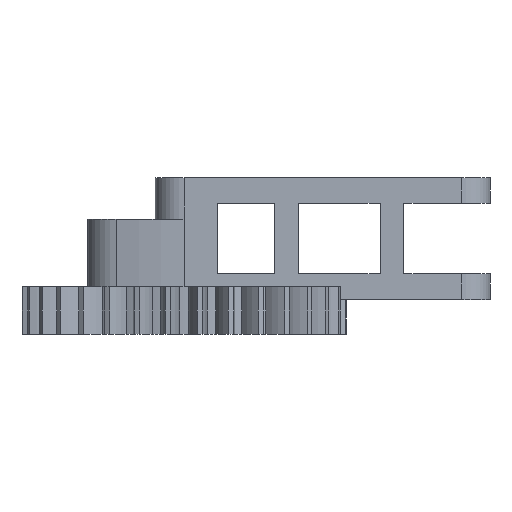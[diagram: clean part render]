
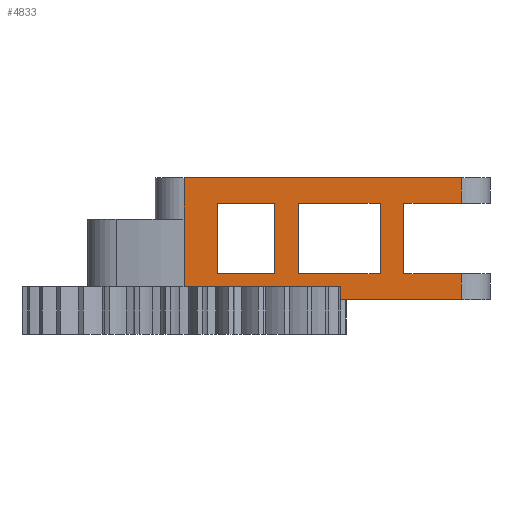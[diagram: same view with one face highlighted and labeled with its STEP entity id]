
A CAD part, left-side view. The second image highlights one B-rep face of the part: STEP entity #4833.
In plain terms, the highlighted planar face has unit normal (-1, 0, 0).
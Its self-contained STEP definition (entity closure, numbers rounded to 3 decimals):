
#67 = CARTESIAN_POINT ( 'NONE',  ( -6., -58., 22.802 ) ) ;
#85 = DIRECTION ( 'NONE',  ( 0., -1., 0. ) ) ;
#133 = LINE ( 'NONE', #2324, #3306 ) ;
#192 = VECTOR ( 'NONE', #1176, 1000. ) ;
#200 = CARTESIAN_POINT ( 'NONE',  ( -6., 0., 0. ) ) ;
#202 = CARTESIAN_POINT ( 'NONE',  ( -6., -58., 22.802 ) ) ;
#218 = EDGE_CURVE ( 'NONE', #2537, #4668, #1034, .T. ) ;
#269 = LINE ( 'NONE', #2926, #3499 ) ;
#277 = LINE ( 'NONE', #2504, #4988 ) ;
#288 = EDGE_LOOP ( 'NONE', ( #4915, #5011, #3444, #1164 ) ) ;
#293 = VERTEX_POINT ( 'NONE', #200 ) ;
#320 = CARTESIAN_POINT ( 'NONE',  ( -6., -46., 17.402 ) ) ;
#376 = LINE ( 'NONE', #778, #5596 ) ;
#390 = CARTESIAN_POINT ( 'NONE',  ( -6., -7., -2.698 ) ) ;
#429 = VERTEX_POINT ( 'NONE', #4463 ) ;
#443 = VECTOR ( 'NONE', #85, 1000. ) ;
#466 = VECTOR ( 'NONE', #1592, 1000. ) ;
#509 = DIRECTION ( 'NONE',  ( 0., 0., -1. ) ) ;
#553 = VECTOR ( 'NONE', #1379, 1000. ) ;
#625 = CARTESIAN_POINT ( 'NONE',  ( -6., -58., 17.402 ) ) ;
#632 = CARTESIAN_POINT ( 'NONE',  ( -6., -58., -2.698 ) ) ;
#641 = CARTESIAN_POINT ( 'NONE',  ( -6., -28.882, 0. ) ) ;
#647 = ORIENTED_EDGE ( 'NONE', *, *, #3559, .T. ) ;
#663 = LINE ( 'NONE', #202, #466 ) ;
#679 = CARTESIAN_POINT ( 'NONE',  ( -6., -58., 2.702 ) ) ;
#709 = ORIENTED_EDGE ( 'NONE', *, *, #1728, .F. ) ;
#764 = VERTEX_POINT ( 'NONE', #1744 ) ;
#773 = LINE ( 'NONE', #3939, #192 ) ;
#778 = CARTESIAN_POINT ( 'NONE',  ( -6., -58., 2.702 ) ) ;
#806 = LINE ( 'NONE', #5646, #4137 ) ;
#816 = EDGE_CURVE ( 'NONE', #2604, #3696, #5651, .T. ) ;
#883 = LINE ( 'NONE', #2648, #933 ) ;
#913 = VERTEX_POINT ( 'NONE', #5470 ) ;
#933 = VECTOR ( 'NONE', #1954, 1000. ) ;
#966 = ORIENTED_EDGE ( 'NONE', *, *, #5220, .T. ) ;
#1034 = LINE ( 'NONE', #3231, #2230 ) ;
#1059 = CARTESIAN_POINT ( 'NONE',  ( -6., -19., 2.702 ) ) ;
#1091 = PLANE ( 'NONE',  #3887 ) ;
#1144 = CARTESIAN_POINT ( 'NONE',  ( -6., -46., 2.702 ) ) ;
#1164 = ORIENTED_EDGE ( 'NONE', *, *, #2111, .F. ) ;
#1176 = DIRECTION ( 'NONE',  ( 0., 1., 0. ) ) ;
#1257 = CARTESIAN_POINT ( 'NONE',  ( -6., -41., 17.402 ) ) ;
#1259 = EDGE_CURVE ( 'NONE', #913, #4992, #4088, .T. ) ;
#1311 = VERTEX_POINT ( 'NONE', #1144 ) ;
#1321 = EDGE_CURVE ( 'NONE', #293, #429, #2850, .T. ) ;
#1379 = DIRECTION ( 'NONE',  ( 0., 0., 1. ) ) ;
#1535 = ORIENTED_EDGE ( 'NONE', *, *, #5072, .F. ) ;
#1592 = DIRECTION ( 'NONE',  ( 0., -1., 0. ) ) ;
#1607 = DIRECTION ( 'NONE',  ( 0., 1., 0. ) ) ;
#1649 = CARTESIAN_POINT ( 'NONE',  ( -6., -58., -2.698 ) ) ;
#1691 = CARTESIAN_POINT ( 'NONE',  ( -6., -58., 17.402 ) ) ;
#1728 = EDGE_CURVE ( 'NONE', #1311, #5466, #4630, .T. ) ;
#1744 = CARTESIAN_POINT ( 'NONE',  ( -6., -7., 2.702 ) ) ;
#1779 = CARTESIAN_POINT ( 'NONE',  ( -6., -58., 2.702 ) ) ;
#1831 = CARTESIAN_POINT ( 'NONE',  ( -6., -24., -2.698 ) ) ;
#1909 = EDGE_CURVE ( 'NONE', #4668, #764, #2034, .T. ) ;
#1954 = DIRECTION ( 'NONE',  ( 0., 0., 1. ) ) ;
#1960 = ORIENTED_EDGE ( 'NONE', *, *, #218, .F. ) ;
#1967 = FACE_BOUND ( 'NONE', #288, .T. ) ;
#2005 = ORIENTED_EDGE ( 'NONE', *, *, #1909, .F. ) ;
#2034 = LINE ( 'NONE', #390, #5414 ) ;
#2109 = CARTESIAN_POINT ( 'NONE',  ( -6., -7., 17.402 ) ) ;
#2110 = VECTOR ( 'NONE', #3163, 1000. ) ;
#2111 = EDGE_CURVE ( 'NONE', #5442, #2604, #5301, .T. ) ;
#2176 = EDGE_CURVE ( 'NONE', #429, #4913, #133, .T. ) ;
#2220 = VECTOR ( 'NONE', #4669, 1000. ) ;
#2230 = VECTOR ( 'NONE', #5459, 1000. ) ;
#2324 = CARTESIAN_POINT ( 'NONE',  ( -6., 0., -2.698 ) ) ;
#2343 = DIRECTION ( 'NONE',  ( -1., 0., 0. ) ) ;
#2396 = DIRECTION ( 'NONE',  ( 0., 0., 1. ) ) ;
#2482 = DIRECTION ( 'NONE',  ( 0., -1., 0. ) ) ;
#2504 = CARTESIAN_POINT ( 'NONE',  ( -6., -19., -2.698 ) ) ;
#2537 = VERTEX_POINT ( 'NONE', #2634 ) ;
#2604 = VERTEX_POINT ( 'NONE', #4067 ) ;
#2634 = CARTESIAN_POINT ( 'NONE',  ( -6., -19., 17.402 ) ) ;
#2636 = VECTOR ( 'NONE', #2396, 1000. ) ;
#2645 = ORIENTED_EDGE ( 'NONE', *, *, #2176, .F. ) ;
#2648 = CARTESIAN_POINT ( 'NONE',  ( -6., -41., -2.698 ) ) ;
#2747 = ORIENTED_EDGE ( 'NONE', *, *, #3935, .F. ) ;
#2848 = VECTOR ( 'NONE', #3730, 1000. ) ;
#2850 = LINE ( 'NONE', #4638, #2937 ) ;
#2916 = EDGE_CURVE ( 'NONE', #3626, #1311, #3171, .T. ) ;
#2926 = CARTESIAN_POINT ( 'NONE',  ( -6., -58., 17.402 ) ) ;
#2937 = VECTOR ( 'NONE', #5060, 1000. ) ;
#2954 = EDGE_CURVE ( 'NONE', #3696, #4022, #883, .T. ) ;
#3026 = ORIENTED_EDGE ( 'NONE', *, *, #1259, .T. ) ;
#3087 = EDGE_CURVE ( 'NONE', #3803, #2537, #277, .T. ) ;
#3096 = CARTESIAN_POINT ( 'NONE',  ( -6., -24., 17.402 ) ) ;
#3122 = CARTESIAN_POINT ( 'NONE',  ( -6., -58., 2.702 ) ) ;
#3163 = DIRECTION ( 'NONE',  ( 0., 0., -1. ) ) ;
#3171 = LINE ( 'NONE', #3997, #5430 ) ;
#3231 = CARTESIAN_POINT ( 'NONE',  ( -6., -58., 17.402 ) ) ;
#3256 = ORIENTED_EDGE ( 'NONE', *, *, #3087, .F. ) ;
#3287 = DIRECTION ( 'NONE',  ( 0., -1., 0. ) ) ;
#3306 = VECTOR ( 'NONE', #4508, 1000. ) ;
#3444 = ORIENTED_EDGE ( 'NONE', *, *, #816, .F. ) ;
#3461 = DIRECTION ( 'NONE',  ( 0., 0., -1. ) ) ;
#3499 = VECTOR ( 'NONE', #1607, 1000. ) ;
#3559 = EDGE_CURVE ( 'NONE', #5302, #913, #806, .T. ) ;
#3603 = LINE ( 'NONE', #5317, #553 ) ;
#3626 = VERTEX_POINT ( 'NONE', #320 ) ;
#3661 = CARTESIAN_POINT ( 'NONE',  ( -6., 0., 22.802 ) ) ;
#3665 = ORIENTED_EDGE ( 'NONE', *, *, #3770, .F. ) ;
#3696 = VERTEX_POINT ( 'NONE', #5294 ) ;
#3730 = DIRECTION ( 'NONE',  ( 0., -1., 0. ) ) ;
#3761 = EDGE_CURVE ( 'NONE', #4913, #5514, #663, .T. ) ;
#3770 = EDGE_CURVE ( 'NONE', #4586, #3626, #4576, .T. ) ;
#3803 = VERTEX_POINT ( 'NONE', #1059 ) ;
#3823 = EDGE_LOOP ( 'NONE', ( #1960, #3256, #1535, #2005 ) ) ;
#3887 = AXIS2_PLACEMENT_3D ( 'NONE', #5439, #2343, #3287 ) ;
#3935 = EDGE_CURVE ( 'NONE', #5302, #293, #773, .T. ) ;
#3939 = CARTESIAN_POINT ( 'NONE',  ( -6., 0., 0. ) ) ;
#3997 = CARTESIAN_POINT ( 'NONE',  ( -6., -46., -2.698 ) ) ;
#4022 = VERTEX_POINT ( 'NONE', #1257 ) ;
#4067 = CARTESIAN_POINT ( 'NONE',  ( -6., -24., 2.702 ) ) ;
#4088 = LINE ( 'NONE', #5314, #443 ) ;
#4137 = VECTOR ( 'NONE', #3461, 1000. ) ;
#4256 = DIRECTION ( 'NONE',  ( 0., 0., 1. ) ) ;
#4259 = VECTOR ( 'NONE', #4419, 1000. ) ;
#4419 = DIRECTION ( 'NONE',  ( 0., -1., 0. ) ) ;
#4463 = CARTESIAN_POINT ( 'NONE',  ( -6., 0., 14.102 ) ) ;
#4508 = DIRECTION ( 'NONE',  ( 0., 0., 1. ) ) ;
#4576 = LINE ( 'NONE', #625, #2220 ) ;
#4586 = VERTEX_POINT ( 'NONE', #1691 ) ;
#4630 = LINE ( 'NONE', #679, #2848 ) ;
#4638 = CARTESIAN_POINT ( 'NONE',  ( -6., 0., -2.698 ) ) ;
#4668 = VERTEX_POINT ( 'NONE', #2109 ) ;
#4669 = DIRECTION ( 'NONE',  ( 0., 1., 0. ) ) ;
#4833 = ADVANCED_FACE ( 'NONE', ( #4960, #1967, #5040 ), #1091, .T. ) ;
#4913 = VERTEX_POINT ( 'NONE', #3661 ) ;
#4915 = ORIENTED_EDGE ( 'NONE', *, *, #5278, .F. ) ;
#4960 = FACE_BOUND ( 'NONE', #3823, .T. ) ;
#4988 = VECTOR ( 'NONE', #4256, 1000. ) ;
#4992 = VERTEX_POINT ( 'NONE', #1649 ) ;
#5011 = ORIENTED_EDGE ( 'NONE', *, *, #2954, .F. ) ;
#5040 = FACE_OUTER_BOUND ( 'NONE', #5477, .T. ) ;
#5060 = DIRECTION ( 'NONE',  ( 0., 0., 1. ) ) ;
#5072 = EDGE_CURVE ( 'NONE', #764, #3803, #376, .T. ) ;
#5140 = DIRECTION ( 'NONE',  ( 0., 0., -1. ) ) ;
#5220 = EDGE_CURVE ( 'NONE', #4992, #5466, #3603, .T. ) ;
#5256 = ORIENTED_EDGE ( 'NONE', *, *, #3761, .F. ) ;
#5278 = EDGE_CURVE ( 'NONE', #4022, #5442, #269, .T. ) ;
#5294 = CARTESIAN_POINT ( 'NONE',  ( -6., -41., 2.702 ) ) ;
#5301 = LINE ( 'NONE', #1831, #2110 ) ;
#5302 = VERTEX_POINT ( 'NONE', #641 ) ;
#5314 = CARTESIAN_POINT ( 'NONE',  ( -6., -58., -2.698 ) ) ;
#5317 = CARTESIAN_POINT ( 'NONE',  ( -6., -58., -2.698 ) ) ;
#5414 = VECTOR ( 'NONE', #5140, 1000. ) ;
#5430 = VECTOR ( 'NONE', #509, 1000. ) ;
#5433 = ORIENTED_EDGE ( 'NONE', *, *, #5648, .T. ) ;
#5439 = CARTESIAN_POINT ( 'NONE',  ( -6., -58., -2.698 ) ) ;
#5442 = VERTEX_POINT ( 'NONE', #3096 ) ;
#5459 = DIRECTION ( 'NONE',  ( 0., 1., 0. ) ) ;
#5466 = VERTEX_POINT ( 'NONE', #3122 ) ;
#5470 = CARTESIAN_POINT ( 'NONE',  ( -6., -28.882, -2.698 ) ) ;
#5477 = EDGE_LOOP ( 'NONE', ( #2747, #647, #3026, #966, #709, #5668, #3665, #5433, #5256, #2645, #5487 ) ) ;
#5487 = ORIENTED_EDGE ( 'NONE', *, *, #1321, .F. ) ;
#5493 = LINE ( 'NONE', #632, #2636 ) ;
#5514 = VERTEX_POINT ( 'NONE', #67 ) ;
#5596 = VECTOR ( 'NONE', #2482, 1000. ) ;
#5646 = CARTESIAN_POINT ( 'NONE',  ( -6., -28.882, 0. ) ) ;
#5648 = EDGE_CURVE ( 'NONE', #4586, #5514, #5493, .T. ) ;
#5651 = LINE ( 'NONE', #1779, #4259 ) ;
#5668 = ORIENTED_EDGE ( 'NONE', *, *, #2916, .F. ) ;
